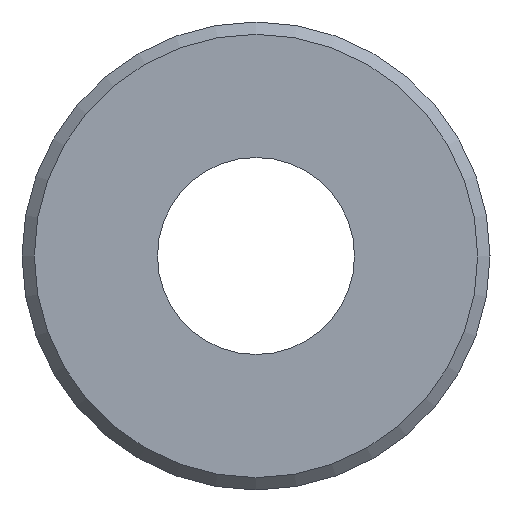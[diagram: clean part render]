
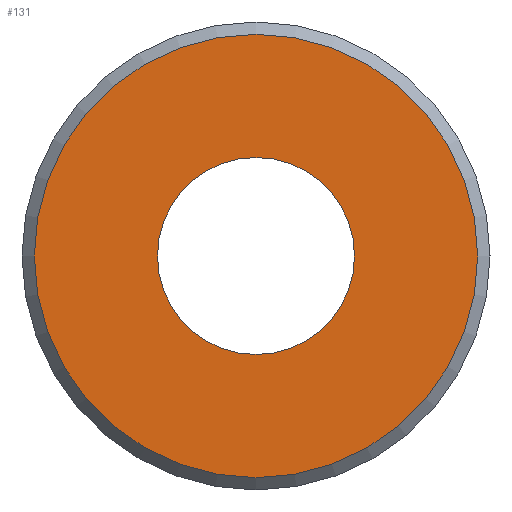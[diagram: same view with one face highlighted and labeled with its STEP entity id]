
A CAD part, left-side view. The second image highlights one B-rep face of the part: STEP entity #131.
In plain terms, the highlighted planar face has unit normal (-1, 0, 0).
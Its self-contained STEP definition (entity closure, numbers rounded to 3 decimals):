
#97=CARTESIAN_POINT('',(0.0,4.,0.0));
#98=VERTEX_POINT('',#97);
#99=CARTESIAN_POINT('',(0.,0.,0.0));
#100=DIRECTION('',(1.0,0.0,0.0));
#101=DIRECTION('',(0.0,1.0,0.0));
#102=AXIS2_PLACEMENT_3D('',#99,#100,#101);
#103=CIRCLE('',#102,4.);
#104=EDGE_CURVE('',#98,#98,#103,.T.);
#112=CARTESIAN_POINT('',(0.0,6.5,0.0));
#113=DIRECTION('',(-1.0,0.0,0.0));
#114=DIRECTION('',(0.0,0.0,1.0));
#115=AXIS2_PLACEMENT_3D('',#112,#113,#114);
#116=PLANE('',#115);
#117=CARTESIAN_POINT('',(0.0,9.0,0.0));
#118=VERTEX_POINT('',#117);
#119=CARTESIAN_POINT('',(0.,0.,0.0));
#120=DIRECTION('',(1.0,0.0,0.0));
#121=DIRECTION('',(0.0,1.0,0.0));
#122=AXIS2_PLACEMENT_3D('',#119,#120,#121);
#123=CIRCLE('',#122,9.);
#124=EDGE_CURVE('',#118,#118,#123,.T.);
#125=ORIENTED_EDGE('',*,*,#124,.F.);
#126=EDGE_LOOP('',(#125));
#127=FACE_OUTER_BOUND('',#126,.T.);
#128=ORIENTED_EDGE('',*,*,#104,.T.);
#129=EDGE_LOOP('',(#128));
#130=FACE_BOUND('',#129,.T.);
#131=ADVANCED_FACE('',(#127,#130),#116,.T.);
